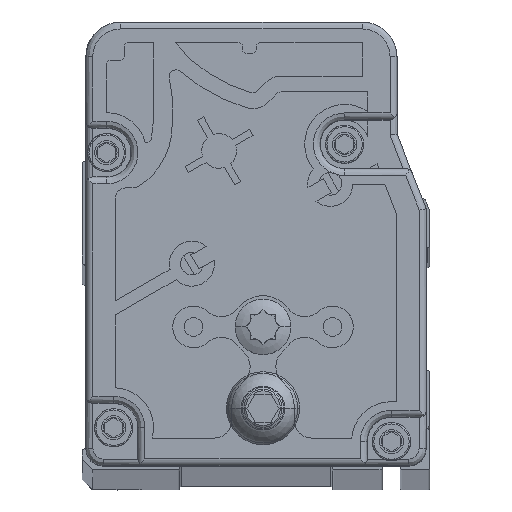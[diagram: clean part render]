
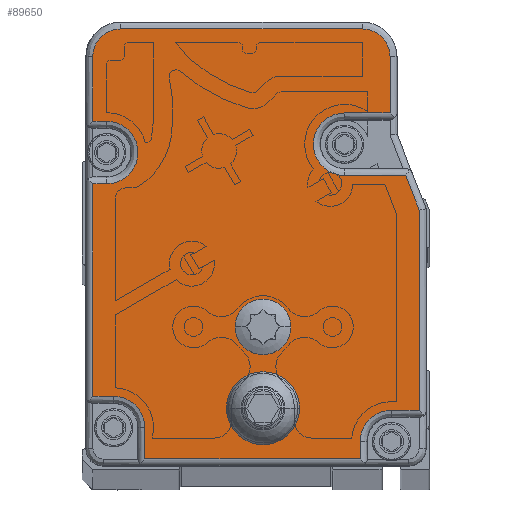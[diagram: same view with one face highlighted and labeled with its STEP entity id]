
A CAD part, top view. The second image highlights one B-rep face of the part: STEP entity #89650.
In plain terms, the highlighted planar face has unit normal (0, 0, 1).
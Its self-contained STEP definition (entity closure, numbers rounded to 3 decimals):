
#15640=CARTESIAN_POINT('',(-20.559,51.727,
2958.89));
#15650=DIRECTION('',(1.,0.,0.));
#15660=VECTOR('',#15650,1.);
#15670=LINE('',#15640,#15660);
#15680=CARTESIAN_POINT('',(-68.559,51.727,
2958.89));
#15690=VERTEX_POINT('',#15680);
#15700=CARTESIAN_POINT('',(-66.559,51.727,
2958.89));
#15710=VERTEX_POINT('',#15700);
#15720=EDGE_CURVE('',#15690,#15710,#15670,.T.);
#16220=CARTESIAN_POINT('',(-20.559,3.124,
2958.89));
#16230=DIRECTION('',(-1.,0.,0.));
#16240=VECTOR('',#16230,1.);
#16250=LINE('',#16220,#16240);
#16260=CARTESIAN_POINT('',(-30.059,3.124,
2958.89));
#16270=VERTEX_POINT('',#16260);
#16280=CARTESIAN_POINT('',(-61.059,3.124,
2958.89));
#16290=VERTEX_POINT('',#16280);
#16300=EDGE_CURVE('',#16270,#16290,#16250,.T.);
#18210=CARTESIAN_POINT('',(-65.559,7.624,
2958.89));
#18220=DIRECTION('',(0.,0.,-1.));
#18230=DIRECTION('',(-1.,0.,0.));
#18240=AXIS2_PLACEMENT_3D('',#18210,#18220,#18230);
#18250=CIRCLE('',#18240,4.5);
#18260=CARTESIAN_POINT('',(-65.559,12.124,
2958.89));
#18270=VERTEX_POINT('',#18260);
#18280=CARTESIAN_POINT('',(-61.059,7.624,
2958.89));
#18290=VERTEX_POINT('',#18280);
#18300=EDGE_CURVE('',#18270,#18290,#18250,.T.);
#52830=CARTESIAN_POINT('',(-32.309,48.424,
2958.89));
#52840=DIRECTION('',(0.,0.,-1.));
#52850=DIRECTION('',(-1.,0.,0.));
#52860=AXIS2_PLACEMENT_3D('',#52830,#52840,#52850);
#52870=CIRCLE('',#52860,4.5);
#52880=CARTESIAN_POINT('',(-32.309,43.924,
2958.89));
#52890=VERTEX_POINT('',#52880);
#52900=CARTESIAN_POINT('',(-32.309,52.924,
2958.89));
#52910=VERTEX_POINT('',#52900);
#52920=EDGE_CURVE('',#52890,#52910,#52870,.T.);
#87650=CARTESIAN_POINT('',(-7.243,2.124,
2958.89));
#87660=DIRECTION('',(0.362,-0.932,0.));
#87670=VECTOR('',#87660,1.);
#87680=LINE('',#87650,#87670);
#87690=CARTESIAN_POINT('',(-23.499,43.924,
2958.89));
#87700=VERTEX_POINT('',#87690);
#87710=CARTESIAN_POINT('',(-21.559,38.937,
2958.89));
#87720=VERTEX_POINT('',#87710);
#87730=EDGE_CURVE('',#87700,#87720,#87680,.T.);
#88010=CARTESIAN_POINT('',(-20.265,1.758,
2958.89));
#88020=DIRECTION('',(0.,0.,-1.));
#88030=DIRECTION('',(-1.,0.,0.));
#88040=AXIS2_PLACEMENT_3D('',#88010,#88020,#88030);
#88050=PLANE('',#88040);
#88060=CARTESIAN_POINT('',(-44.056,10.421,
2958.89));
#88070=DIRECTION('',(0.,0.,-1.));
#88080=DIRECTION('',(-1.,0.,0.));
#88090=AXIS2_PLACEMENT_3D('',#88060,#88070,#88080);
#88100=CIRCLE('',#88090,5.);
#88110=CARTESIAN_POINT('',(-39.056,10.421,
2958.89));
#88120=VERTEX_POINT('',#88110);
#88130=CARTESIAN_POINT('',(-49.056,10.421,
2958.89));
#88140=VERTEX_POINT('',#88130);
#88150=EDGE_CURVE('',#88120,#88140,#88100,.T.);
#88160=ORIENTED_EDGE('',*,*,#88150,.T.);
#88170=EDGE_CURVE('',#88140,#88120,#88100,.T.);
#88180=ORIENTED_EDGE('',*,*,#88170,.T.);
#88190=EDGE_LOOP('',(#88180,#88160));
#88200=FACE_BOUND('',#88190,.T.);
#88210=CARTESIAN_POINT('',(-44.059,22.124,
2958.89));
#88220=DIRECTION('',(0.,0.,1.));
#88230=DIRECTION('',(-1.,0.,0.));
#88240=AXIS2_PLACEMENT_3D('',#88210,#88220,#88230);
#88250=CIRCLE('',#88240,4.);
#88260=CARTESIAN_POINT('',(-40.059,22.124,
2958.89));
#88270=VERTEX_POINT('',#88260);
#88280=CARTESIAN_POINT('',(-48.059,22.124,
2958.89));
#88290=VERTEX_POINT('',#88280);
#88300=EDGE_CURVE('',#88270,#88290,#88250,.T.);
#88310=ORIENTED_EDGE('',*,*,#88300,.F.);
#88320=EDGE_CURVE('',#88290,#88270,#88250,.T.);
#88330=ORIENTED_EDGE('',*,*,#88320,.F.);
#88340=EDGE_LOOP('',(#88330,#88310));
#88350=FACE_BOUND('',#88340,.T.);
#88360=CARTESIAN_POINT('',(-61.059,2.124,
2958.89));
#88370=DIRECTION('',(0.,-1.,0.));
#88380=VECTOR('',#88370,1.);
#88390=LINE('',#88360,#88380);
#88400=EDGE_CURVE('',#18290,#16290,#88390,.T.);
#88410=ORIENTED_EDGE('',*,*,#88400,.T.);
#88420=ORIENTED_EDGE('',*,*,#18300,.T.);
#88430=CARTESIAN_POINT('',(-20.559,12.124,
2958.89));
#88440=DIRECTION('',(1.,0.,0.));
#88450=VECTOR('',#88440,1.);
#88460=LINE('',#88430,#88450);
#88470=CARTESIAN_POINT('',(-68.559,12.124,
2958.89));
#88480=VERTEX_POINT('',#88470);
#88490=EDGE_CURVE('',#88480,#18270,#88460,.T.);
#88500=ORIENTED_EDGE('',*,*,#88490,.T.);
#88510=CARTESIAN_POINT('',(-68.559,2.124,
2958.89));
#88520=DIRECTION('',(0.,-1.,0.));
#88530=VECTOR('',#88520,1.);
#88540=LINE('',#88510,#88530);
#88550=CARTESIAN_POINT('',(-68.559,42.727,
2958.89));
#88560=VERTEX_POINT('',#88550);
#88570=EDGE_CURVE('',#88560,#88480,#88540,.T.);
#88580=ORIENTED_EDGE('',*,*,#88570,.T.);
#88590=CARTESIAN_POINT('',(-20.559,42.727,
2958.89));
#88600=DIRECTION('',(-1.,0.,0.));
#88610=VECTOR('',#88600,1.);
#88620=LINE('',#88590,#88610);
#88630=CARTESIAN_POINT('',(-66.559,42.727,
2958.89));
#88640=VERTEX_POINT('',#88630);
#88650=EDGE_CURVE('',#88640,#88560,#88620,.T.);
#88660=ORIENTED_EDGE('',*,*,#88650,.T.);
#88670=CARTESIAN_POINT('',(-66.559,47.227,
2958.89));
#88680=DIRECTION('',(0.,0.,-1.));
#88690=DIRECTION('',(-1.,0.,0.));
#88700=AXIS2_PLACEMENT_3D('',#88670,#88680,#88690);
#88710=CIRCLE('',#88700,4.5);
#88720=EDGE_CURVE('',#15710,#88640,#88710,.T.);
#88730=ORIENTED_EDGE('',*,*,#88720,.T.);
#88740=ORIENTED_EDGE('',*,*,#15720,.T.);
#88750=CARTESIAN_POINT('',(-68.559,2.124,
2958.89));
#88760=DIRECTION('',(0.,-1.,0.));
#88770=VECTOR('',#88760,1.);
#88780=LINE('',#88750,#88770);
#88790=CARTESIAN_POINT('',(-68.559,61.024,
2958.89));
#88800=VERTEX_POINT('',#88790);
#88810=EDGE_CURVE('',#88800,#15690,#88780,.T.);
#88820=ORIENTED_EDGE('',*,*,#88810,.T.);
#88830=CARTESIAN_POINT('',(-64.559,61.024,
2958.89));
#88840=DIRECTION('',(0.,0.,1.));
#88850=DIRECTION('',(1.,0.,0.));
#88860=AXIS2_PLACEMENT_3D('',#88830,#88840,#88850);
#88870=CIRCLE('',#88860,4.);
#88880=CARTESIAN_POINT('',(-64.559,65.024,
2958.89));
#88890=VERTEX_POINT('',#88880);
#88900=EDGE_CURVE('',#88890,#88800,#88870,.T.);
#88910=ORIENTED_EDGE('',*,*,#88900,.T.);
#88920=CARTESIAN_POINT('',(-20.559,65.024,
2958.89));
#88930=DIRECTION('',(-1.,0.,0.));
#88940=VECTOR('',#88930,1.);
#88950=LINE('',#88920,#88940);
#88960=CARTESIAN_POINT('',(-29.759,65.024,
2958.89));
#88970=VERTEX_POINT('',#88960);
#88980=EDGE_CURVE('',#88970,#88890,#88950,.T.);
#88990=ORIENTED_EDGE('',*,*,#88980,.T.);
#89000=CARTESIAN_POINT('',(-29.759,61.024,
2958.89));
#89010=DIRECTION('',(0.,0.,1.));
#89020=DIRECTION('',(1.,0.,0.));
#89030=AXIS2_PLACEMENT_3D('',#89000,#89010,#89020);
#89040=CIRCLE('',#89030,4.);
#89050=CARTESIAN_POINT('',(-25.759,61.024,
2958.89));
#89060=VERTEX_POINT('',#89050);
#89070=EDGE_CURVE('',#89060,#88970,#89040,.T.);
#89080=ORIENTED_EDGE('',*,*,#89070,.T.);
#89090=CARTESIAN_POINT('',(-25.759,2.124,
2958.89));
#89100=DIRECTION('',(0.,1.,0.));
#89110=VECTOR('',#89100,1.);
#89120=LINE('',#89090,#89110);
#89130=CARTESIAN_POINT('',(-25.759,52.924,
2958.89));
#89140=VERTEX_POINT('',#89130);
#89150=EDGE_CURVE('',#89140,#89060,#89120,.T.);
#89160=ORIENTED_EDGE('',*,*,#89150,.T.);
#89170=CARTESIAN_POINT('',(-20.559,52.924,
2958.89));
#89180=DIRECTION('',(-1.,0.,0.));
#89190=VECTOR('',#89180,1.);
#89200=LINE('',#89170,#89190);
#89210=EDGE_CURVE('',#89140,#52910,#89200,.T.);
#89220=ORIENTED_EDGE('',*,*,#89210,.F.);
#89230=ORIENTED_EDGE('',*,*,#52920,.T.);
#89240=CARTESIAN_POINT('',(-20.559,43.924,
2958.89));
#89250=DIRECTION('',(-1.,0.,0.));
#89260=VECTOR('',#89250,1.);
#89270=LINE('',#89240,#89260);
#89280=EDGE_CURVE('',#87700,#52890,#89270,.T.);
#89290=ORIENTED_EDGE('',*,*,#89280,.T.);
#89300=ORIENTED_EDGE('',*,*,#87730,.F.);
#89310=CARTESIAN_POINT('',(-21.559,2.124,
2958.89));
#89320=DIRECTION('',(0.,-1.,0.));
#89330=VECTOR('',#89320,1.);
#89340=LINE('',#89310,#89330);
#89350=CARTESIAN_POINT('',(-21.559,10.124,
2958.89));
#89360=VERTEX_POINT('',#89350);
#89370=EDGE_CURVE('',#87720,#89360,#89340,.T.);
#89380=ORIENTED_EDGE('',*,*,#89370,.F.);
#89390=CARTESIAN_POINT('',(-20.559,10.124,
2958.89));
#89400=DIRECTION('',(1.,0.,0.));
#89410=VECTOR('',#89400,1.);
#89420=LINE('',#89390,#89410);
#89430=CARTESIAN_POINT('',(-25.559,10.124,
2958.89));
#89440=VERTEX_POINT('',#89430);
#89450=EDGE_CURVE('',#89440,#89360,#89420,.T.);
#89460=ORIENTED_EDGE('',*,*,#89450,.T.);
#89470=CARTESIAN_POINT('',(-25.559,5.624,
2958.89));
#89480=DIRECTION('',(0.,0.,-1.));
#89490=DIRECTION('',(-1.,0.,0.));
#89500=AXIS2_PLACEMENT_3D('',#89470,#89480,#89490);
#89510=CIRCLE('',#89500,4.5);
#89520=CARTESIAN_POINT('',(-30.059,5.624,
2958.89));
#89530=VERTEX_POINT('',#89520);
#89540=EDGE_CURVE('',#89530,#89440,#89510,.T.);
#89550=ORIENTED_EDGE('',*,*,#89540,.T.);
#89560=CARTESIAN_POINT('',(-30.059,2.124,
2958.89));
#89570=DIRECTION('',(0.,1.,0.));
#89580=VECTOR('',#89570,1.);
#89590=LINE('',#89560,#89580);
#89600=EDGE_CURVE('',#16270,#89530,#89590,.T.);
#89610=ORIENTED_EDGE('',*,*,#89600,.T.);
#89620=ORIENTED_EDGE('',*,*,#16300,.F.);
#89630=EDGE_LOOP('',(#89620,#89610,#89550,#89460,#89380,#89300,#89290,
#89230,#89220,#89160,#89080,#88990,#88910,#88820,#88740,#88730,#88660,
#88580,#88500,#88420,#88410));
#89640=FACE_OUTER_BOUND('',#89630,.T.);
#89650=ADVANCED_FACE('',(#88200,#88350,#89640),#88050,.F.);
